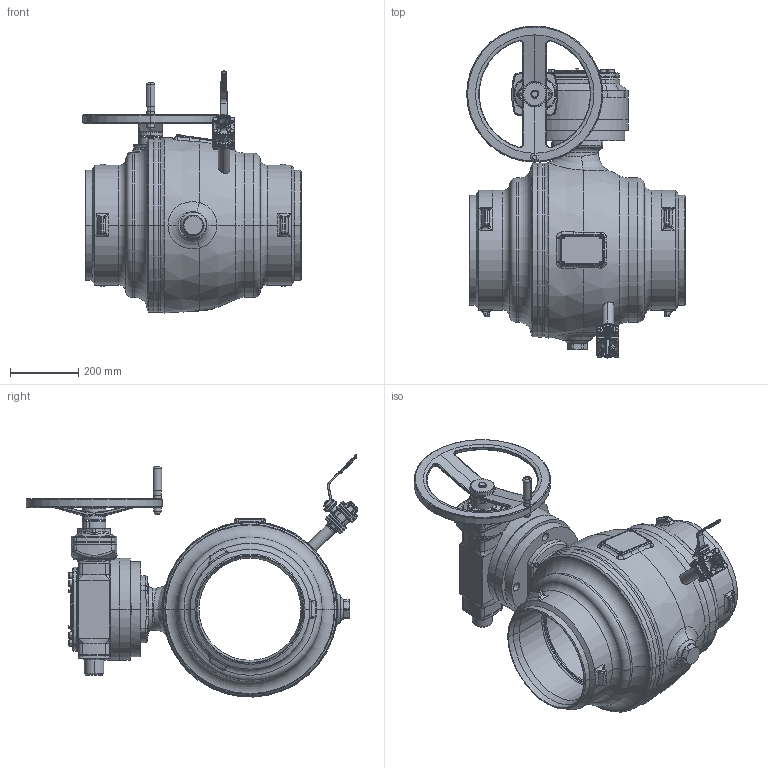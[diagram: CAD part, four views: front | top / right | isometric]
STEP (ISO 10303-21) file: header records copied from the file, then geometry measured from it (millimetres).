
FILE_DESCRIPTION((''),'2;1');
FILE_NAME('ASM0002_ASM','2026-01-28T10:43:06',('schwaba'),('KLINGER'),'CREO PARAMETRIC BY PTC INC, 2023014','CREO PARAMETRIC BY PTC INC, 2023014','');
FILE_SCHEMA(('CONFIG_CONTROL_DESIGN'));
Products named in the file (3): KHSVI_300_FR_WE_ENTL; GS125_F25_AHR400_DN300; ASM0002_ASM
Assembly tree (2 placements, depth 2):
  ASM0002_ASM
    KHSVI_300_FR_WE_ENTL
    GS125_F25_AHR400_DN300
Bounding box: 642.5 x 975.38 x 711.38 mm (x, y, z)
Volume: 45947905.3 mm3; surface area: 4535763.3 mm2
Topology: 6 solids, 6 shells, 4231 faces, 9928 edges, 5865 vertices
Faces by surface type: plane 1245, cylinder 1046, torus 706, bspline 633, cone 511, sphere 69, revolution 16, extrusion 5
Entity records: 232168 total; most frequent: CARTESIAN_POINT 138857, ORIENTED_EDGE 19776, DIRECTION 19550, EDGE_CURVE 9888, AXIS2_PLACEMENT_3D 8310, VERTEX_POINT 5865, CIRCLE 4725, EDGE_LOOP 4525
